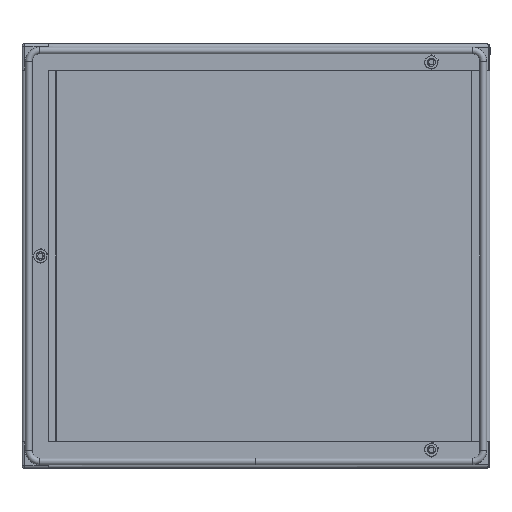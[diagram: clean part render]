
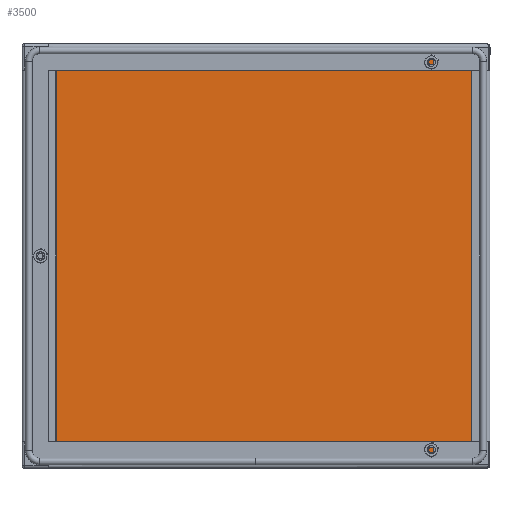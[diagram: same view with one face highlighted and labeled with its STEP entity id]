
A CAD part, left-side view. The second image highlights one B-rep face of the part: STEP entity #3500.
In plain terms, the highlighted planar face has unit normal (-1, 0, 0).
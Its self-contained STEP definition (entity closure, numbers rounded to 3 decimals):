
#167 = LINE ( 'NONE', #3133, #5417 ) ;
#187 = VECTOR ( 'NONE', #4717, 1000. ) ;
#236 = FACE_OUTER_BOUND ( 'NONE', #1785, .T. ) ;
#448 = CARTESIAN_POINT ( 'NONE',  ( -1.4, 191.199, -188.3 ) ) ;
#482 = CARTESIAN_POINT ( 'NONE',  ( -1.4, -193.8, -187.1 ) ) ;
#507 = DIRECTION ( 'NONE',  ( 0., 1., 0. ) ) ;
#735 = DIRECTION ( 'NONE',  ( -1., 0., 0. ) ) ;
#817 = DIRECTION ( 'NONE',  ( 0., 0., 1. ) ) ;
#917 = CARTESIAN_POINT ( 'NONE',  ( -1.4, -193.8, 187.1 ) ) ;
#950 = CARTESIAN_POINT ( 'NONE',  ( -1.4, -193.8, -187.1 ) ) ;
#970 = ORIENTED_EDGE ( 'NONE', *, *, #5453, .F. ) ;
#1381 = CARTESIAN_POINT ( 'NONE',  ( -1.4, 191.199, 187.1 ) ) ;
#1423 = EDGE_CURVE ( 'NONE', #2996, #5501, #3900, .T. ) ;
#1532 = ORIENTED_EDGE ( 'NONE', *, *, #1423, .F. ) ;
#1606 = DIRECTION ( 'NONE',  ( 0., 0., 1. ) ) ;
#1771 = ORIENTED_EDGE ( 'NONE', *, *, #2101, .F. ) ;
#1785 = EDGE_LOOP ( 'NONE', ( #1771, #970, #5235, #1532 ) ) ;
#2101 = EDGE_CURVE ( 'NONE', #5482, #2996, #3104, .T. ) ;
#2606 = CARTESIAN_POINT ( 'NONE',  ( -1.4, 191.199, -187.1 ) ) ;
#2759 = CARTESIAN_POINT ( 'NONE',  ( -1.4, 191.199, 187.1 ) ) ;
#2996 = VERTEX_POINT ( 'NONE', #2759 ) ;
#3104 = LINE ( 'NONE', #448, #3842 ) ;
#3133 = CARTESIAN_POINT ( 'NONE',  ( -1.4, -193.8, 188.3 ) ) ;
#3259 = CARTESIAN_POINT ( 'NONE',  ( -1.4, 0., 0. ) ) ;
#3500 = ADVANCED_FACE ( 'NONE', ( #236 ), #4548, .T. ) ;
#3681 = LINE ( 'NONE', #482, #4222 ) ;
#3842 = VECTOR ( 'NONE', #817, 1000. ) ;
#3900 = LINE ( 'NONE', #1381, #187 ) ;
#3956 = DIRECTION ( 'NONE',  ( 0., 0., -1. ) ) ;
#4222 = VECTOR ( 'NONE', #507, 1000. ) ;
#4548 = PLANE ( 'NONE',  #5319 ) ;
#4717 = DIRECTION ( 'NONE',  ( 0., -1., 0. ) ) ;
#4974 = EDGE_CURVE ( 'NONE', #5501, #5460, #167, .T. ) ;
#5235 = ORIENTED_EDGE ( 'NONE', *, *, #4974, .F. ) ;
#5319 = AXIS2_PLACEMENT_3D ( 'NONE', #3259, #735, #1606 ) ;
#5417 = VECTOR ( 'NONE', #3956, 1000. ) ;
#5453 = EDGE_CURVE ( 'NONE', #5460, #5482, #3681, .T. ) ;
#5460 = VERTEX_POINT ( 'NONE', #950 ) ;
#5482 = VERTEX_POINT ( 'NONE', #2606 ) ;
#5501 = VERTEX_POINT ( 'NONE', #917 ) ;
